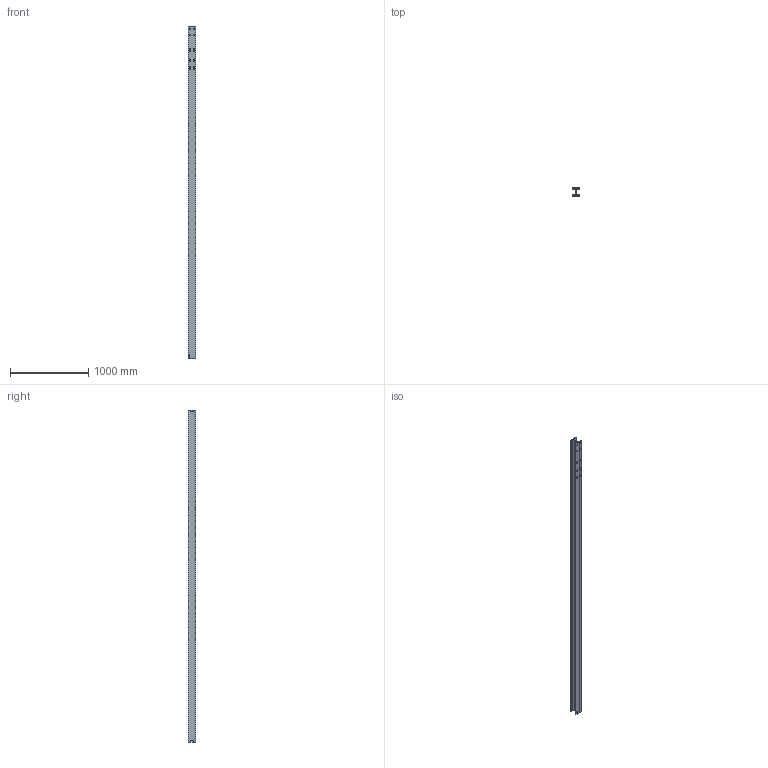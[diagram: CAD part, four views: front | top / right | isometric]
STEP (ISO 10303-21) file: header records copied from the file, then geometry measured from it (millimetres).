
FILE_DESCRIPTION (( 'STEP AP214' ), '1' );
FILE_NAME ('CCJ029-REP.024 - POTEAU TYPE 5.STEP', '2025-02-13T08:49:09', ( '' ), ( '' ), 'SwSTEP 2.0', 'SolidWorks 2021', '' );
FILE_SCHEMA (( 'AUTOMOTIVE_DESIGN' ));
Length unit declared in the file: millimetre
Products named in the file (1): CCJ029-REP.024 - POTEAU TYPE 5
Bounding box: 100 x 100 x 4240 mm (x, y, z)
Volume: 11003084.8 mm3; surface area: 2411613.7 mm2
Topology: 1 solids, 1 shells, 107 faces, 300 edges, 200 vertices
Faces by surface type: plane 50, cylinder 42, bspline 15
Entity records: 4642 total; most frequent: CARTESIAN_POINT 1799, ORIENTED_EDGE 600, DIRECTION 540, EDGE_CURVE 300, VERTEX_POINT 200, VECTOR 186, LINE 186, AXIS2_PLACEMENT_3D 177
